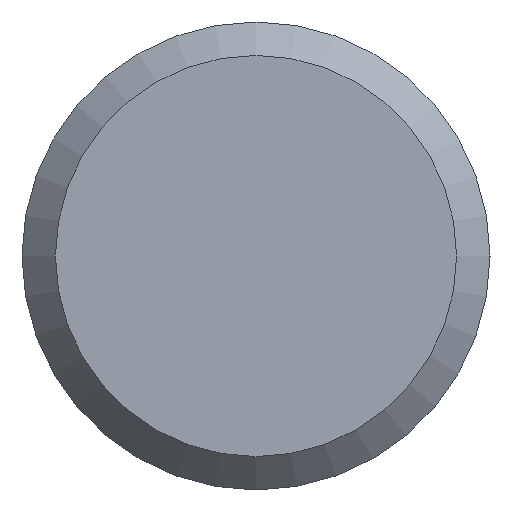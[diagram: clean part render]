
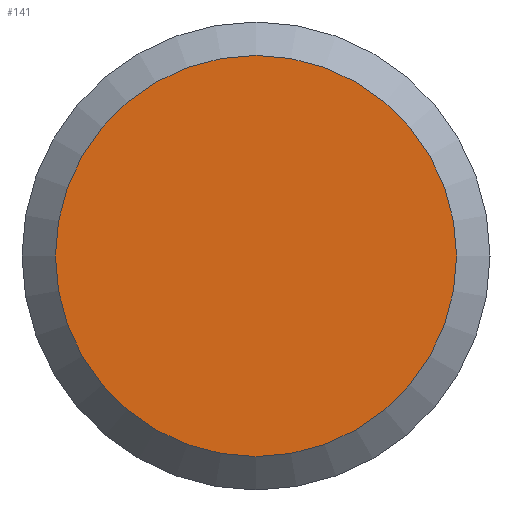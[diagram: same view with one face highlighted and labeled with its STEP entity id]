
A CAD part, left-side view. The second image highlights one B-rep face of the part: STEP entity #141.
In plain terms, the highlighted planar face has unit normal (-1, 0, 0).
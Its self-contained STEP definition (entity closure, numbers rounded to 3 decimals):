
#23=PLANE('',#182);
#32=FACE_OUTER_BOUND('',#45,.T.);
#45=EDGE_LOOP('',(#119));
#69=CIRCLE('',#183,6.);
#79=VERTEX_POINT('',#266);
#93=EDGE_CURVE('',#79,#79,#69,.T.);
#119=ORIENTED_EDGE('',*,*,#93,.F.);
#141=ADVANCED_FACE('',(#32),#23,.T.);
#182=AXIS2_PLACEMENT_3D('',#265,#223,#224);
#183=AXIS2_PLACEMENT_3D('',#267,#225,#226);
#223=DIRECTION('center_axis',(-1.,0.,0.));
#224=DIRECTION('ref_axis',(0.,0.,1.));
#225=DIRECTION('center_axis',(1.,0.,0.));
#226=DIRECTION('ref_axis',(0.,0.,-1.));
#265=CARTESIAN_POINT('Origin',(0.,6.,0.));
#266=CARTESIAN_POINT('',(0.,-6.,0.));
#267=CARTESIAN_POINT('Origin',(0.,0.,0.));
